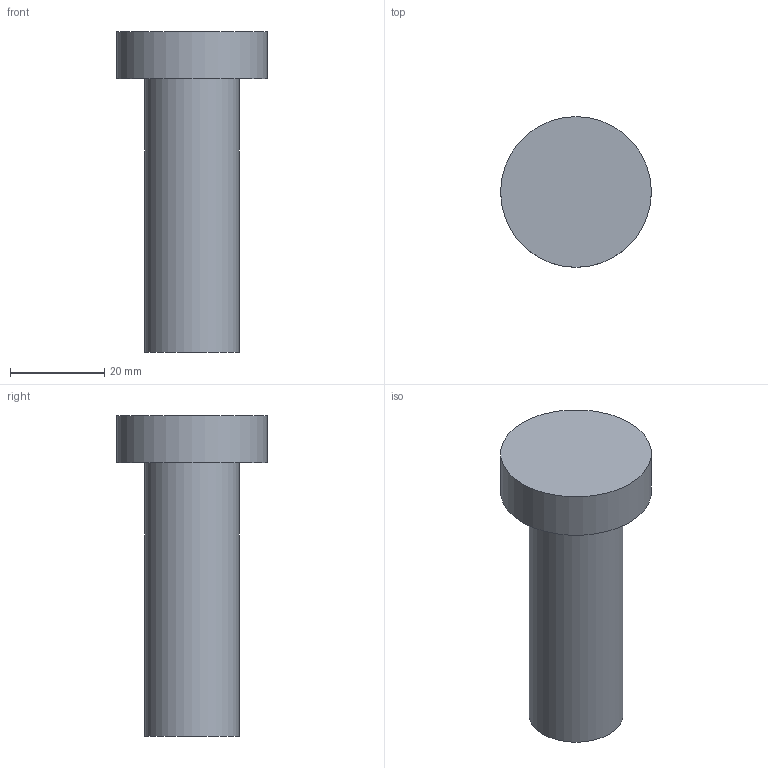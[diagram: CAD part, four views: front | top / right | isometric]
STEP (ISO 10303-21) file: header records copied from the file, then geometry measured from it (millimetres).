
FILE_DESCRIPTION(('Open CASCADE Model'),'2;1');
FILE_NAME('Open CASCADE Shape Model','2026-10-08T06:53:14',('Author'),( 'Open CASCADE'),'Open CASCADE STEP processor 7.8','Open CASCADE 7.8' ,'Unknown');
FILE_SCHEMA(('AUTOMOTIVE_DESIGN { 1 0 10303 214 1 1 1 1 }'));
Length unit declared in the file: millimetre
Products named in the file (1): Open CASCADE STEP translator 7.8 28
Bounding box: 32 x 32 x 68 mm (x, y, z)
Volume: 26263.7 mm3; surface area: 6258.1 mm2
Topology: 1 solids, 1 shells, 5 faces, 6 edges, 4 vertices
Faces by surface type: plane 3, cylinder 2
Full cylindrical faces by diameter (mm): 20 x1, 32 x1
Entity records: 192 total; most frequent: DIRECTION 34, CARTESIAN_POINT 28, ORIENTED_EDGE 12, PCURVE 12, DEFINITIONAL_REPRESENTATION 12, AXIS2_PLACEMENT_3D 10, LINE 10, VECTOR 10
